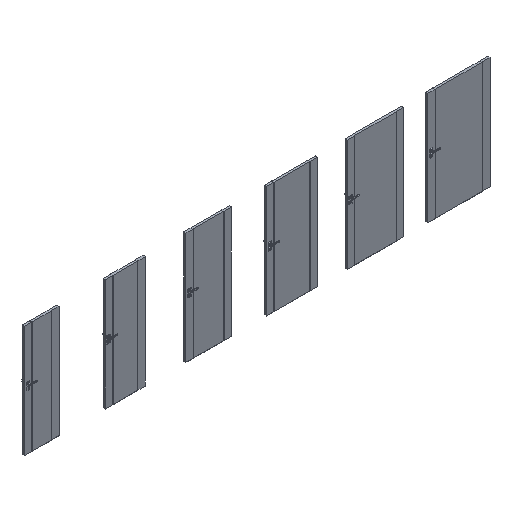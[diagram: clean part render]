
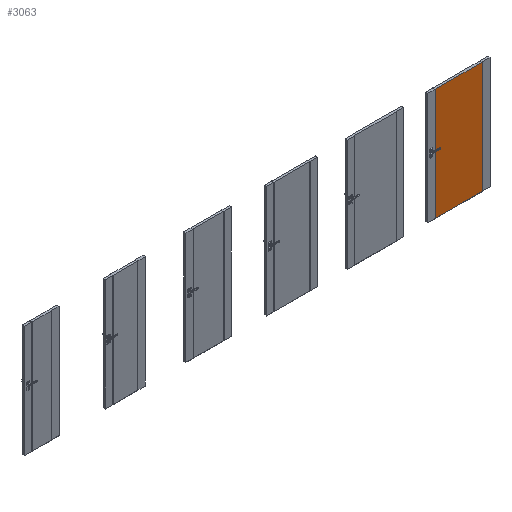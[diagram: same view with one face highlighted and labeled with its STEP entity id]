
A CAD part, isometric view. The second image highlights one B-rep face of the part: STEP entity #3063.
In plain terms, the highlighted planar face has unit normal (0, -1, 0).
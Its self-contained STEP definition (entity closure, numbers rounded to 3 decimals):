
#3063=ADVANCED_FACE('',(#4809),#3971,.F.);
#3971=PLANE('',#21240);
#4809=FACE_OUTER_BOUND('',#6045,.T.);
#6045=EDGE_LOOP('',(#9678,#9679,#9680,#9681));
#9678=ORIENTED_EDGE('',*,*,#15662,.T.);
#9679=ORIENTED_EDGE('',*,*,#15663,.T.);
#9680=ORIENTED_EDGE('',*,*,#15664,.F.);
#9681=ORIENTED_EDGE('',*,*,#15665,.F.);
#13364=VERTEX_POINT('',#34272);
#13365=VERTEX_POINT('',#34273);
#13366=VERTEX_POINT('',#34275);
#13367=VERTEX_POINT('',#34277);
#15662=EDGE_CURVE('',#13364,#13365,#17920,.T.);
#15663=EDGE_CURVE('',#13365,#13366,#17921,.T.);
#15664=EDGE_CURVE('',#13367,#13366,#17922,.T.);
#15665=EDGE_CURVE('',#13364,#13367,#17923,.T.);
#17920=LINE('',#34271,#19516);
#17921=LINE('',#34274,#19517);
#17922=LINE('',#34276,#19518);
#17923=LINE('',#34278,#19519);
#19516=VECTOR('',#25085,1.);
#19517=VECTOR('',#25086,1.);
#19518=VECTOR('',#25087,1.);
#19519=VECTOR('',#25088,1.);
#21240=AXIS2_PLACEMENT_3D('',#34279,#25089,#25090);
#25085=DIRECTION('',(1.,0.,0.));
#25086=DIRECTION('',(0.,0.,1.));
#25087=DIRECTION('',(1.,0.,0.));
#25088=DIRECTION('',(0.,0.,1.));
#25089=DIRECTION('',(0.,1.,0.));
#25090=DIRECTION('',(-1.,0.,0.));
#34271=CARTESIAN_POINT('',(7191.,-39.3,2.));
#34272=CARTESIAN_POINT('',(7080.15,-39.3,2.));
#34273=CARTESIAN_POINT('',(7919.85,-39.3,2.));
#34274=CARTESIAN_POINT('',(7919.85,-39.3,0.));
#34275=CARTESIAN_POINT('',(7919.85,-39.3,2017.));
#34276=CARTESIAN_POINT('',(7191.,-39.3,2017.));
#34277=CARTESIAN_POINT('',(7080.15,-39.3,2017.));
#34278=CARTESIAN_POINT('',(7080.15,-39.3,0.));
#34279=CARTESIAN_POINT('',(7191.,-39.3,2017.));
